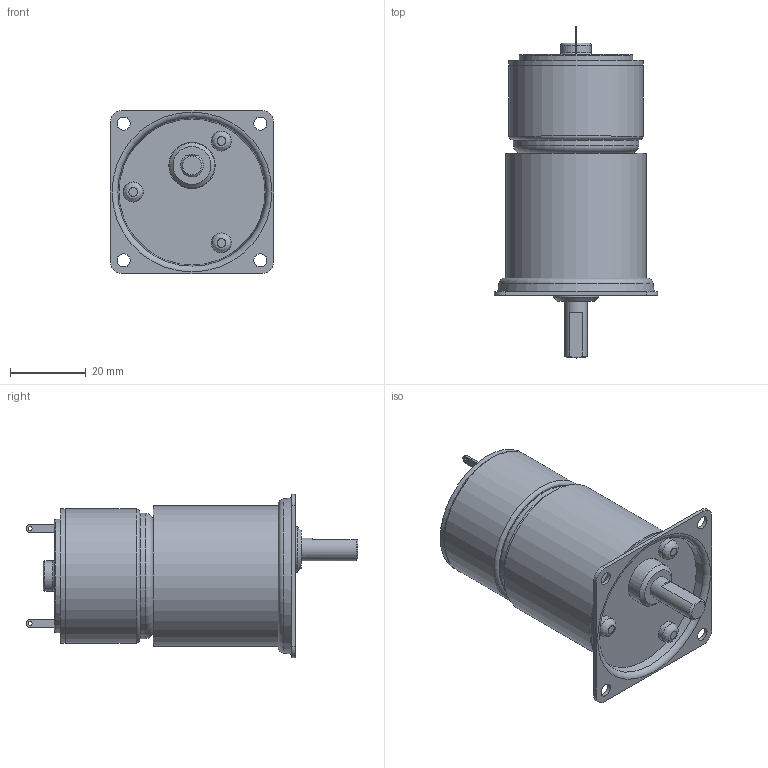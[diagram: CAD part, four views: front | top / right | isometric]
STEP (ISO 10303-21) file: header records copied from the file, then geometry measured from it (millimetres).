
FILE_DESCRIPTION((''),'2;1');
FILE_NAME('C:\Documents and Settings\SSEGAWA\デスクトップ\TP-3526G-PM-6.STP','2013-07-09T17:50:03',('SSEGAWA'),(''),'Autodesk Inventor 2010','Autodesk Inventor 2010','');
FILE_SCHEMA(('CONFIG_CONTROL_DESIGN'));
Length unit declared in the file: millimetre
Products named in the file (5): tp_3526g_pm_6; pm_6; km_6; □43; tp_3526g
Assembly tree (4 placements, depth 3):
  tp_3526g_pm_6
    pm_6
      km_6
      □43
    tp_3526g
Bounding box: 43 x 87.5 x 43 mm (x, y, z)
Volume: 63435.9 mm3; surface area: 16039.8 mm2
Topology: 3 solids, 3 shells, 107 faces, 226 edges, 148 vertices
Faces by surface type: plane 41, cylinder 31, bspline 24, torus 6, cone 5
Full cylindrical faces by diameter (mm): 2 x1, 2.4 x1, 4 x3, 5 x2, 5.3 x3, 6 x1, 8 x1, 10 x1, 12 x1, 12.2 x1, 30 x1, 33 x1, 35 x1, 35.4 x2, 37 x1
Entity records: 3085 total; most frequent: CARTESIAN_POINT 969, DIRECTION 439, ORIENTED_EDGE 302, EDGE_LOOP 199, AXIS2_PLACEMENT_3D 198, EDGE_CURVE 151, VERTEX_POINT 128, FACE_OUTER_BOUND 107
